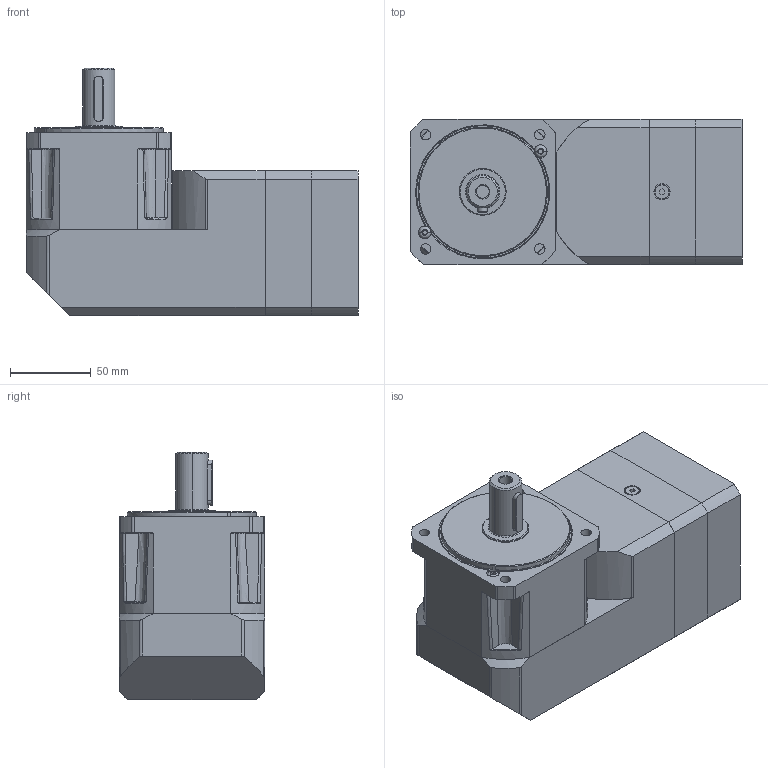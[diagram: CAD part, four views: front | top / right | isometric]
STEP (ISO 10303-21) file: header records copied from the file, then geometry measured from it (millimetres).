
FILE_DESCRIPTION((''),'2;1');
FILE_NAME('PS90-XXX-000-X2_ASM','2009-03-27T',('ata7311'),(''),'PRO/ENGINEER BY PARAMETRIC TECHNOLOGY CORPORATION, 2006300','PRO/ENGINEER BY PARAMETRIC TECHNOLOGY CORPORATION, 2006300','');
FILE_SCHEMA(('CONFIG_CONTROL_DESIGN'));
Products named in the file (16): 13333XXX; 13332000; HD202-0001; 13334000; BHC-M4X8; 13331XXX_ASM; 13340000; 13347000; 13348XXX; 13120001; 12292000; M5X20; 13346XXX_ASM; 13134003; M5X30; PS90-XXX-000-X2_ASM
Assembly tree (20 placements, depth 3):
  PS90-XXX-000-X2_ASM
    13331XXX_ASM
      13333XXX
      13332000
      HD202-0001
      13334000
      BHC-M4X8  x2
    13340000
    13346XXX_ASM
      13347000
      13348XXX
      13120001
      12292000  x2
      M5X20
    13134003
    M5X30  x4
Bounding box: 205.5 x 90 x 153.5 mm (x, y, z)
Volume: 1275215.6 mm3; surface area: 232105.6 mm2
Topology: 18 solids, 19 shells, 637 faces, 1493 edges, 957 vertices
Faces by surface type: cylinder 267, plane 237, cone 62, bspline 43, torus 28
Entity records: 18507 total; most frequent: CARTESIAN_POINT 5212, DIRECTION 2868, ORIENTED_EDGE 2614, EDGE_CURVE 1307, AXIS2_PLACEMENT_3D 1159, VERTEX_POINT 837, EDGE_LOOP 636, CIRCLE 601
